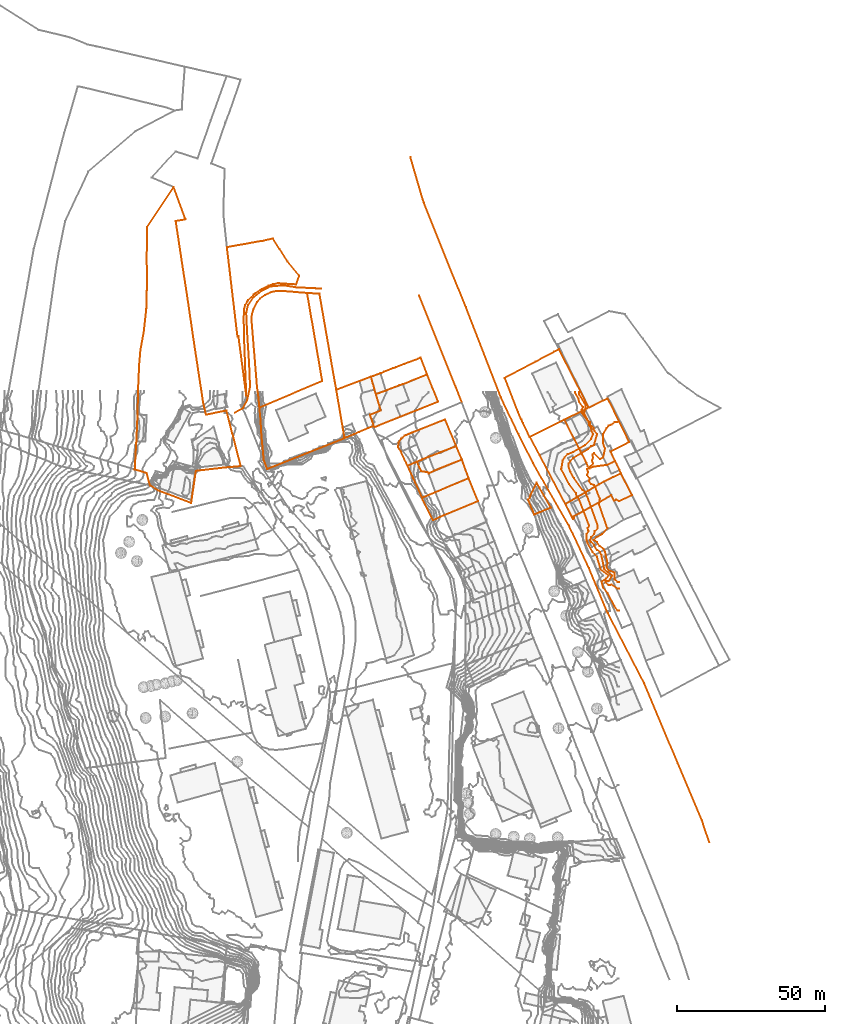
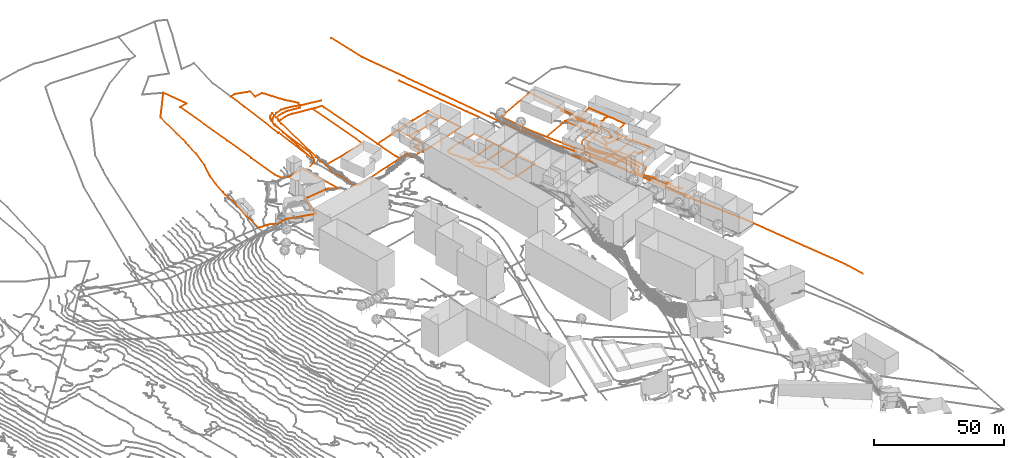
# Not in any storey, part 386 of 419: 22 proxies.
"""IFC2X3 model written with IfcOpenShell, lengths in metres."""

from ifc_helpers import new_model, entity, si_unit, frame, origin_with_axes, place, context, subcontext, project, element, save


model = new_model("IFC2X3")

# Units and contexts
model_context = context("Model", 3, precision=1e-05, world=origin_with_axes())
body_context = subcontext(model_context, "Body", "Model", "MODEL_VIEW")
ifc_project = project(units=[si_unit("AREAUNIT", "SQUARE_METRE"), si_unit("LENGTHUNIT", "METRE")], contexts=[model_context])

# Proxies
proxy_1_placement = place(None, frame((905.8920204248, 1111.6976909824, 86.3), z_axis=(0.0, 0.0, 1.0), x_axis=(1.0, 0.0, 0.0)))
element("IfcBuildingElementProxy", 1, at=proxy_1_placement, Name="Route 44", ObjectType="NOTDEFINED", context=body_context, shape_type="GeometricCurveSet", body=[
    entity("IfcGeometricCurveSet", [entity("IfcPolyline", [entity("IfcCartesianPoint", [101.2999999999, -232.2999999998, -5.0]), entity("IfcCartesianPoint", [98.7999999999, -224.7999999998, -4.7]), entity("IfcCartesianPoint", [90.6, -205.3999999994, -4.5]), entity("IfcCartesianPoint", [79.2, -178.2000000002, -4.1]), entity("IfcCartesianPoint", [66.8999999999, -154.5999999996, -3.6]), entity("IfcCartesianPoint", [60.5, -139.2999999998, -3.3]), entity("IfcCartesianPoint", [53.7, -124.7999999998, -2.9]), entity("IfcCartesianPoint", [46.1, -111.7000000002, -2.4]), entity("IfcCartesianPoint", [41.6, -103.7000000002, -2.4]), entity("IfcCartesianPoint", [36.6, -93.8999999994, -2.3]), entity("IfcCartesianPoint", [30.7, -81.5, -2.1]), entity("IfcCartesianPoint", [18.7999999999, -50.8999999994, -1.7]), entity("IfcCartesianPoint", [4.6, -15.7000000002, -1.1]), entity("IfcCartesianPoint", [0.0, 0.0, 0.0])])]),
])
proxy_2_placement = place(None, frame((908.8920204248, 1064.6976909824, 93.7), z_axis=(0.0, 0.0, 1.0), x_axis=(1.0, 0.0, 0.0)))
element("IfcBuildingElementProxy", 2, at=proxy_2_placement, Name="Route 214", ObjectType="NOTDEFINED", context=body_context, shape_type="GeometricCurveSet", body=[
    entity("IfcGeometricCurveSet", [entity("IfcPolyline", [entity("IfcCartesianPoint", [14.3999999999, -36.0999999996, -0.2]), entity("IfcCartesianPoint", [12.2999999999, -30.7000000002, -0.2]), entity("IfcCartesianPoint", [0.0, 0.0, 0.0])])]),
])
proxy_3_placement = place(None, frame((846.1920204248, 1024.9976909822, 99.5), z_axis=(0.0, 0.0, 1.0), x_axis=(1.0, 0.0, 0.0)))
element("IfcBuildingElementProxy", 3, at=proxy_3_placement, Name="Route 314", ObjectType="NOTDEFINED", context=body_context, shape_type="GeometricCurveSet", body=[
    entity("IfcGeometricCurveSet", [entity("IfcPolyline", [entity("IfcCartesianPoint", [0.0, 0.0, 0.0]), entity("IfcCartesianPoint", [3.0, 1.6000000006, 0.0]), entity("IfcCartesianPoint", [4.4, 4.3000000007, -0.2]), entity("IfcCartesianPoint", [5.4, 8.9000000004, -0.7]), entity("IfcCartesianPoint", [5.1, 16.5, -1.5]), entity("IfcCartesianPoint", [4.4, 27.6000000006, -2.2]), entity("IfcCartesianPoint", [4.1, 33.8000000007, -2.6]), entity("IfcCartesianPoint", [4.7000000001, 36.6000000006, -2.6]), entity("IfcCartesianPoint", [6.3, 38.9000000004, -2.7]), entity("IfcCartesianPoint", [9.1, 41.2000000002, -3.1]), entity("IfcCartesianPoint", [12.1, 42.8000000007, -3.5]), entity("IfcCartesianPoint", [16.6, 43.2000000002, -4.0]), entity("IfcCartesianPoint", [21.2000000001, 42.5, -4.3]), entity("IfcCartesianPoint", [27.8, 42.2000000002, -4.8]), entity("IfcCartesianPoint", [29.4, 42.1000000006, -4.8])])]),
])
proxy_4_placement = place(None, frame((812.5220204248, 1005.8476909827, 94.333429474), z_axis=(0.0, 0.0, 1.0), x_axis=(1.0, 0.0, 0.0)))
element("IfcBuildingElementProxy", 4, at=proxy_4_placement, Name="Cadastre 89", ObjectType="NOTDEFINED", context=body_context, shape_type="GeometricCurveSet", body=[
    entity("IfcGeometricCurveSet", [entity("IfcPolyline", [entity("IfcCartesianPoint", [35.9099999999, 1.1200000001, 5.2493813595]), entity("IfcCartesianPoint", [30.45, 0.6399999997, 7.1471694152]), entity("IfcCartesianPoint", [20.7, -0.4900000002, 6.7785911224]), entity("IfcCartesianPoint", [19.11, -11.3600000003, 6.8225557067]), entity("IfcCartesianPoint", [8.0599999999, -7.2199999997, 5.624827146]), entity("IfcCartesianPoint", [5.1699999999, -5.4000000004, 3.2054714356]), entity("IfcCartesianPoint", [4.0499999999, -1.25, 0.951329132]), entity("IfcCartesianPoint", [0.0, 0.0, 0.0]), entity("IfcCartesianPoint", [0.5399999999, 9.5099999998, -0.8262674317]), entity("IfcCartesianPoint", [0.97, 18.6600000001, -0.5593504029]), entity("IfcCartesianPoint", [1.14, 27.6200000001, -1.5453265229]), entity("IfcCartesianPoint", [1.23, 29.0999999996, -1.4706270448]), entity("IfcCartesianPoint", [1.49, 35.3799999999, -1.2548285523]), entity("IfcCartesianPoint", [1.9199999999, 40.4100000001, -0.8979310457]), entity("IfcCartesianPoint", [3.0299999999, 46.4399999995, 0.0233698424]), entity("IfcCartesianPoint", [3.9199999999, 54.3499999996, 0.2860735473]), entity("IfcCartesianPoint", [4.08, 60.4299999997, 0.3265741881]), entity("IfcCartesianPoint", [4.25, 63.1600000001, 0.3265741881]), entity("IfcCartesianPoint", [4.08, 69.7699999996, 0.3265741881]), entity("IfcCartesianPoint", [4.11, 82.1600000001, 0.3265741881]), entity("IfcCartesianPoint", [13.1699999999, 95.6500000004, 0.5715715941]), entity("IfcCartesianPoint", [17.21, 84.7299999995, 0.7605721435]), entity("IfcCartesianPoint", [13.89, 84.1299999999, 0.6075682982]), entity("IfcCartesianPoint", [18.26, 55.46, 0.8446704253]), entity("IfcCartesianPoint", [20.4199999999, 40.7299999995, 0.836568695]), entity("IfcCartesianPoint", [22.6, 26.5300000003, 0.8417637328]), entity("IfcCartesianPoint", [23.1699999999, 22.6899999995, 1.5498732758]), entity("IfcCartesianPoint", [24.13, 18.5499999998, 4.0389733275]), entity("IfcCartesianPoint", [31.0599999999, 19.9699999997, 4.6959024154]), entity("IfcCartesianPoint", [35.9099999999, 1.1200000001, 5.2493813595])])]),
])
proxy_5_placement = place(None, frame((958.4320204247, 994.1576909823, 82.632350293), z_axis=(0.0, 0.0, 1.0), x_axis=(1.0, 0.0, 0.0)))
element("IfcBuildingElementProxy", 5, at=proxy_5_placement, Name="Cadastre 219", ObjectType="NOTDEFINED", context=body_context, shape_type="GeometricCurveSet", body=[
    entity("IfcGeometricCurveSet", [entity("IfcPolyline", [entity("IfcCartesianPoint", [22.5, 2.9800000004, -4.1071525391]), entity("IfcCartesianPoint", [18.12, 0.96, -4.0767481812]), entity("IfcCartesianPoint", [17.2100000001, 1.4500000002, -4.0844476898]), entity("IfcCartesianPoint", [16.4600000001, 1.1000000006, -4.016549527]), entity("IfcCartesianPoint", [15.52, 2.9400000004, -3.9587515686]), entity("IfcCartesianPoint", [4.6100000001, -3.2399999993, -1.0651085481]), entity("IfcCartesianPoint", [2.4600000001, -4.3499999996, -0.2216515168]), entity("IfcCartesianPoint", [2.8600000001, -4.8700000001, -0.2807319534]), entity("IfcCartesianPoint", [2.5700000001, -5.1200000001, -0.148254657]), entity("IfcCartesianPoint", [0.0, 0.0, 0.0]), entity("IfcCartesianPoint", [6.9, 4.0300000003, -2.7475122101]), entity("IfcCartesianPoint", [7.76, 4.54, -3.0947497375]), entity("IfcCartesianPoint", [11.4300000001, 6.6699999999, -3.7006549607]), entity("IfcCartesianPoint", [13.05, 7.6000000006, -3.834359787]), entity("IfcCartesianPoint", [16.1000000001, 9.1000000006, -4.1460481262]), entity("IfcCartesianPoint", [18.8300000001, 10.3200000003, -4.1863529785]), entity("IfcCartesianPoint", [22.5, 2.9800000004, -4.1071525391])])]),
])
proxy_6_placement = place(None, frame((958.1020204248, 1022.7676909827, 82.9931108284), z_axis=(0.0, 0.0, 1.0), x_axis=(1.0, 0.0, 0.0)))
element("IfcBuildingElementProxy", 6, at=proxy_6_placement, Name="Cadastre 220", ObjectType="NOTDEFINED", context=body_context, shape_type="GeometricCurveSet", body=[
    entity("IfcGeometricCurveSet", [entity("IfcPolyline", [entity("IfcCartesianPoint", [17.1800000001, -14.04, -4.5066397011]), entity("IfcCartesianPoint", [14.45, -15.4000000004, -4.2870236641]), entity("IfcCartesianPoint", [9.8200000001, -15.9900000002, -4.1146657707]), entity("IfcCartesianPoint", [8.42, -16.5599999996, -4.0385136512]), entity("IfcCartesianPoint", [7.9, -15.7199999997, -3.9711322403]), entity("IfcCartesianPoint", [7.47, -14.8200000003, -3.8635404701]), entity("IfcCartesianPoint", [5.53, -10.8099999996, -3.045110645]), entity("IfcCartesianPoint", [3.21, -6.3899999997, -0.1408853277]), entity("IfcCartesianPoint", [0.0, 0.0, 0.0]), entity("IfcCartesianPoint", [5.73, 2.8099999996, -2.3644635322]), entity("IfcCartesianPoint", [8.24, 4.0300000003, -3.5656099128]), entity("IfcCartesianPoint", [13.1, 6.4100000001, -3.4795134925]), entity("IfcCartesianPoint", [14.64, 7.1500000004, -3.3899297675]), entity("IfcCartesianPoint", [21.95, -7.5999999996, -4.2731096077]), entity("IfcCartesianPoint", [15.63, -10.8600000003, -4.2321698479]), entity("IfcCartesianPoint", [17.1800000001, -14.04, -4.5066397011])])]),
])
proxy_7_placement = place(None, frame((909.8720204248, 996.2776909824, 93.5001431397), z_axis=(0.0, 0.0, 1.0), x_axis=(1.0, 0.0, 0.0)))
element("IfcBuildingElementProxy", 7, at=proxy_7_placement, Name="Cadastre 228", ObjectType="NOTDEFINED", context=body_context, shape_type="GeometricCurveSet", body=[
    entity("IfcGeometricCurveSet", [entity("IfcPolyline", [entity("IfcCartesianPoint", [18.91, -1.1499999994, -3.3026057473]), entity("IfcCartesianPoint", [7.61, -5.8399999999, -2.7545013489]), entity("IfcCartesianPoint", [3.6799999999, -7.6099999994, -1.5548727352]), entity("IfcCartesianPoint", [0.23, -0.6899999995, -0.0319701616]), entity("IfcCartesianPoint", [0.0, 0.0, 0.0]), entity("IfcCartesianPoint", [4.49, 1.8700000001, -2.843441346]), entity("IfcCartesianPoint", [15.76, 6.5700000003, -3.0372032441]), entity("IfcCartesianPoint", [18.91, -1.1499999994, -3.3026057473])])]),
])
proxy_8_placement = place(None, frame((904.9020204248, 1007.127690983, 93.4796817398), z_axis=(0.0, 0.0, 1.0), x_axis=(1.0, 0.0, 0.0)))
element("IfcBuildingElementProxy", 8, at=proxy_8_placement, Name="Cadastre 229", ObjectType="NOTDEFINED", context=body_context, shape_type="GeometricCurveSet", body=[
    entity("IfcGeometricCurveSet", [entity("IfcPolyline", [entity("IfcCartesianPoint", [20.73, -4.2800000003, -3.0167418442]), entity("IfcCartesianPoint", [9.46, -8.9800000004, -2.8229799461]), entity("IfcCartesianPoint", [4.97, -10.8500000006, 0.0204613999]), entity("IfcCartesianPoint", [1.98, -4.1500000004, -1.4124156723]), entity("IfcCartesianPoint", [0.0, 0.0, 0.0]), entity("IfcCartesianPoint", [2.5299999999, 1.0800000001, -1.8779742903]), entity("IfcCartesianPoint", [3.24, 1.3899999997, -2.3395213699]), entity("IfcCartesianPoint", [4.6599999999, -1.8900000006, -2.601340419]), entity("IfcCartesianPoint", [6.73, -2.25, -2.5085471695]), entity("IfcCartesianPoint", [7.08, -2.3900000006, -2.5484749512]), entity("IfcCartesianPoint", [7.1899999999, -2.6500000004, -2.5604834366]), entity("IfcCartesianPoint", [9.13, -1.6699999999, -2.6502207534]), entity("IfcCartesianPoint", [18.45, 2.0999999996, -2.8385501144]), entity("IfcCartesianPoint", [20.73, -4.2800000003, -3.0167418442])])]),
])
proxy_9_placement = place(None, frame((908.1420204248, 1008.5176909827, 91.1401603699), z_axis=(0.0, 0.0, 1.0), x_axis=(1.0, 0.0, 0.0)))
element("IfcBuildingElementProxy", 9, at=proxy_9_placement, Name="Cadastre 230", ObjectType="NOTDEFINED", context=body_context, shape_type="GeometricCurveSet", body=[
    entity("IfcGeometricCurveSet", [entity("IfcPolyline", [entity("IfcCartesianPoint", [15.21, 0.71, -0.4990287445]), entity("IfcCartesianPoint", [5.89, -3.0599999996, -0.3106993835]), entity("IfcCartesianPoint", [3.95, -4.04, -0.2209620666]), entity("IfcCartesianPoint", [3.84, -3.7800000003, -0.2089535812]), entity("IfcCartesianPoint", [3.49, -3.6399999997, -0.1690257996]), entity("IfcCartesianPoint", [1.4199999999, -3.2800000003, -0.2618190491]), entity("IfcCartesianPoint", [0.0, 0.0, 0.0]), entity("IfcCartesianPoint", [1.65, 0.6299999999, -0.2086612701]), entity("IfcCartesianPoint", [1.9399999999, 0.8099999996, -0.1957040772]), entity("IfcCartesianPoint", [4.03, 1.6500000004, -0.2331905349]), entity("IfcCartesianPoint", [13.28, 5.1900000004, -0.2537514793]), entity("IfcCartesianPoint", [15.21, 0.71, -0.4990287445])])]),
])
proxy_10_placement = place(None, frame((901.7620204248, 1013.4476909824, 93.1591904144), z_axis=(0.0, 0.0, 1.0), x_axis=(1.0, 0.0, 0.0)))
element("IfcBuildingElementProxy", 10, at=proxy_10_placement, Name="Cadastre 231", ObjectType="NOTDEFINED", context=body_context, shape_type="GeometricCurveSet", body=[
    entity("IfcGeometricCurveSet", [entity("IfcPolyline", [entity("IfcCartesianPoint", [6.38, -4.9299999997, -2.0190300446]), entity("IfcCartesianPoint", [5.6699999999, -5.2399999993, -1.557482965]), entity("IfcCartesianPoint", [3.14, -6.3199999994, 0.3204913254]), entity("IfcCartesianPoint", [0.9199999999, -1.5800000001, 0.0455853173]), entity("IfcCartesianPoint", [0.0, 0.0, 0.0]), entity("IfcCartesianPoint", [0.12, 1.5700000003, -0.0971929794]), entity("IfcCartesianPoint", [0.99, 2.8900000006, -0.573244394]), entity("IfcCartesianPoint", [1.47, 3.25, -0.7703105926]), entity("IfcCartesianPoint", [2.14, 3.8500000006, -1.0186219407]), entity("IfcCartesianPoint", [2.63, 4.0200000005, -1.0940516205]), entity("IfcCartesianPoint", [3.46, 4.4100000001, -1.0702113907]), entity("IfcCartesianPoint", [4.77, 4.9000000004, -0.9352775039]), entity("IfcCartesianPoint", [15.9299999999, 9.3300000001, -1.8910692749]), entity("IfcCartesianPoint", [19.66, 0.2600000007, -2.2727815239]), entity("IfcCartesianPoint", [10.41, -3.2799999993, -2.2522205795]), entity("IfcCartesianPoint", [8.3199999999, -4.1200000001, -2.2147341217]), entity("IfcCartesianPoint", [8.03, -4.2999999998, -2.2276913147]), entity("IfcCartesianPoint", [6.38, -4.9299999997, -2.0190300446])])]),
])
proxy_11_placement = place(None, frame((945.8120204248, 995.6076909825, 87.773518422), z_axis=(0.0, 0.0, 1.0), x_axis=(1.0, 0.0, 0.0)))
element("IfcBuildingElementProxy", 11, at=proxy_11_placement, Name="Cadastre 238", ObjectType="NOTDEFINED", context=body_context, shape_type="GeometricCurveSet", body=[
    entity("IfcGeometricCurveSet", [entity("IfcPolyline", [entity("IfcCartesianPoint", [2.05, -5.0099999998, 1.0510823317]), entity("IfcCartesianPoint", [1.64, -4.0899999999, 0.8963913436]), entity("IfcCartesianPoint", [0.0, 0.0, 0.0]), entity("IfcCartesianPoint", [0.67, 1.0300000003, -1.1987527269]), entity("IfcCartesianPoint", [0.8300000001, 1.6699999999, -1.7269364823]), entity("IfcCartesianPoint", [2.8400000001, 5.71, -4.554665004]), entity("IfcCartesianPoint", [3.8, 4.0499999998, -4.6826737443]), entity("IfcCartesianPoint", [7.7100000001, -2.6399999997, -4.7443866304]), entity("IfcCartesianPoint", [3.8100000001, -4.2800000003, -0.7798511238]), entity("IfcCartesianPoint", [2.05, -5.0099999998, 1.0510823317])])]),
])
proxy_12_placement = place(None, frame((937.8520204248, 1036.877690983, 83.6047994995), z_axis=(0.0, 0.0, 1.0), x_axis=(1.0, 0.0, 0.0)))
element("IfcBuildingElementProxy", 12, at=proxy_12_placement, Name="Cadastre 239", ObjectType="NOTDEFINED", context=body_context, shape_type="GeometricCurveSet", body=[
    entity("IfcGeometricCurveSet", [entity("IfcPolyline", [entity("IfcCartesianPoint", [18.36, 9.6799999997, -1.1325999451]), entity("IfcCartesianPoint", [28.49, -10.0800000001, -4.1772985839]), entity("IfcCartesianPoint", [25.98, -11.3000000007, -2.9761522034]), entity("IfcCartesianPoint", [20.25, -14.1100000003, -0.6116886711]), entity("IfcCartesianPoint", [8.49, -19.9900000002, -0.3006982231]), entity("IfcCartesianPoint", [6.1800000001, -15.3700000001, -0.1745364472]), entity("IfcCartesianPoint", [5.65, -14.2200000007, -0.2421637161]), entity("IfcCartesianPoint", [4.51, -11.6699999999, -0.2565371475]), entity("IfcCartesianPoint", [0.0, 0.0, 0.0]), entity("IfcCartesianPoint", [10.41, 5.4899999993, -0.3681972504]), entity("IfcCartesianPoint", [16.71, 8.8099999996, -0.8321027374]), entity("IfcCartesianPoint", [18.36, 9.6799999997, -1.1325999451])])]),
])
proxy_13_placement = place(None, frame((946.3420204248, 1016.8876909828, 83.3041012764), z_axis=(0.0, 0.0, 1.0), x_axis=(1.0, 0.0, 0.0)))
element("IfcBuildingElementProxy", 13, at=proxy_13_placement, Name="Cadastre 240", ObjectType="NOTDEFINED", context=body_context, shape_type="GeometricCurveSet", body=[
    entity("IfcGeometricCurveSet", [entity("IfcPolyline", [entity("IfcCartesianPoint", [30.92, -12.4100000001, -4.858103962]), entity("IfcCartesianPoint", [28.1900000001, -13.6299999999, -4.8177991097]), entity("IfcCartesianPoint", [25.14, -15.1299999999, -4.5061107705]), entity("IfcCartesianPoint", [23.52, -16.0600000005, -4.3724059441]), entity("IfcCartesianPoint", [19.85, -18.1900000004, -3.766500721]), entity("IfcCartesianPoint", [18.99, -18.7000000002, -3.4192631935]), entity("IfcCartesianPoint", [12.09, -22.7300000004, -0.6717509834]), entity("IfcCartesianPoint", [3.34, -6.2000000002, -0.164861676]), entity("IfcCartesianPoint", [0.0, 0.0, 0.0]), entity("IfcCartesianPoint", [11.76, 5.8799999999, -0.310990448]), entity("IfcCartesianPoint", [14.97, -0.5099999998, -0.4518757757]), entity("IfcCartesianPoint", [17.29, -4.9299999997, -3.3561010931]), entity("IfcCartesianPoint", [19.23, -8.9400000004, -4.1745309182]), entity("IfcCartesianPoint", [19.66, -9.8399999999, -4.2821226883]), entity("IfcCartesianPoint", [20.1800000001, -10.6799999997, -4.3495040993]), entity("IfcCartesianPoint", [21.5800000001, -10.1100000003, -4.4256562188]), entity("IfcCartesianPoint", [26.21, -9.5200000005, -4.5980141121]), entity("IfcCartesianPoint", [28.9400000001, -8.1600000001, -4.8176301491]), entity("IfcCartesianPoint", [30.41, -11.25, -4.9089007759]), entity("IfcCartesianPoint", [30.92, -12.4100000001, -4.858103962])])]),
])
proxy_14_placement = place(None, frame((843.7420204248, 1081.127690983, 99.1515026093), z_axis=(0.0, 0.0, 1.0), x_axis=(1.0, 0.0, 0.0)))
element("IfcBuildingElementProxy", 14, at=proxy_14_placement, Name="Cadastre 246", ObjectType="NOTDEFINED", context=body_context, shape_type="GeometricCurveSet", body=[
    entity("IfcGeometricCurveSet", [entity("IfcPolyline", [entity("IfcCartesianPoint", [15.6, 2.9699999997, -5.6390018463]), entity("IfcCartesianPoint", [17.8, -0.5500000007, -5.641500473]), entity("IfcCartesianPoint", [20.5699999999, -4.8900000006, -5.7358998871]), entity("IfcCartesianPoint", [24.48, -9.5600000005, -5.7303993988]), entity("IfcCartesianPoint", [23.4300000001, -12.6200000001, -5.707302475]), entity("IfcCartesianPoint", [17.36, -12.2000000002, -5.641500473]), entity("IfcCartesianPoint", [15.7, -12.5600000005, -5.6440021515]), entity("IfcCartesianPoint", [14.05, -13.0500000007, -5.6014995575]), entity("IfcCartesianPoint", [11.91, -14.1100000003, -5.5257053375]), entity("IfcCartesianPoint", [9.71, -15.5, -2.0183005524]), entity("IfcCartesianPoint", [9.29, -15.8000000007, -1.438701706]), entity("IfcCartesianPoint", [9.09, -15.9800000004, -1.1627022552]), entity("IfcCartesianPoint", [7.25, -17.9500000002, -0.649502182]), entity("IfcCartesianPoint", [6.86, -18.4700000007, -0.6417005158]), entity("IfcCartesianPoint", [6.22, -19.6400000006, -0.591104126]), entity("IfcCartesianPoint", [5.8, -20.9000000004, -0.5420059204]), entity("IfcCartesianPoint", [5.7, -24.0200000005, -0.5030052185]), entity("IfcCartesianPoint", [5.8, -30.1200000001, -0.5420059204]), entity("IfcCartesianPoint", [6.5699999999, -50.29, -0.4673100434]), entity("IfcCartesianPoint", [3.91, -30.1600000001, -0.0211029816]), entity("IfcCartesianPoint", [3.59, -30.2300000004, 0.0326963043]), entity("IfcCartesianPoint", [1.02, -8.5800000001, 0.1920995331]), entity("IfcCartesianPoint", [0.0, 0.0, 0.0]), entity("IfcCartesianPoint", [1.9399999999, 0.3700000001, 0.2495005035]), entity("IfcCartesianPoint", [9.75, 1.7699999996, -2.0735004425]), entity("IfcCartesianPoint", [12.1, 2.1599999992, -5.5390052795]), entity("IfcCartesianPoint", [15.6, 2.9699999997, -5.6390018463])])]),
])
proxy_15_placement = place(None, frame((852.0720204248, 1056.837690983, 98.4083987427), z_axis=(0.0, 0.0, 1.0), x_axis=(1.0, 0.0, 0.0)))
element("IfcBuildingElementProxy", 15, at=proxy_15_placement, Name="Cadastre 247", ObjectType="NOTDEFINED", context=body_context, shape_type="GeometricCurveSet", body=[
    entity("IfcGeometricCurveSet", [entity("IfcPolyline", [entity("IfcCartesianPoint", [2.6800000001, -30.0100000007, -1.9645023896]), entity("IfcCartesianPoint", [2.3100000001, -25.9900000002, -2.8141940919]), entity("IfcCartesianPoint", [1.9, -23.3200000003, -2.2777981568]), entity("IfcCartesianPoint", [0.0, 0.0, 0.0]), entity("IfcCartesianPoint", [0.16, 1.71, -0.027199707]), entity("IfcCartesianPoint", [0.66, 3.3399999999, -0.2815986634]), entity("IfcCartesianPoint", [1.89, 5.6499999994, -2.2564981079]), entity("IfcCartesianPoint", [2.99, 6.9699999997, -4.1530013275]), entity("IfcCartesianPoint", [4.5900000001, 8.1499999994, -4.8491007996]), entity("IfcCartesianPoint", [6.8400000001, 9.1299999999, -4.8743966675]), entity("IfcCartesianPoint", [8.6800000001, 9.5, -4.8983966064]), entity("IfcCartesianPoint", [10.55, 9.4399999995, -4.9104987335]), entity("IfcCartesianPoint", [18.8500000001, 8.7799999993, -5.0383959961]), entity("IfcCartesianPoint", [23.9700000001, -21.0300000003, -5.0918963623]), entity("IfcCartesianPoint", [2.6800000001, -30.0100000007, -1.9645023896])])]),
])
proxy_16_placement = place(None, frame((880.7920204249, 1032.8276909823, 93.3219985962), z_axis=(0.0, 0.0, 1.0), x_axis=(1.0, 0.0, 0.0)))
element("IfcBuildingElementProxy", 16, at=proxy_16_placement, Name="Cadastre 252", ObjectType="NOTDEFINED", context=body_context, shape_type="GeometricCurveSet", body=[
    entity("IfcGeometricCurveSet", [entity("IfcPolyline", [entity("IfcCartesianPoint", [12.72, -12.1399999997, -0.3452249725]), entity("IfcCartesianPoint", [10.7899999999, -12.9699999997, -0.2467819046]), entity("IfcCartesianPoint", [7.7599999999, -14.2599999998, -0.0961683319]), entity("IfcCartesianPoint", [5.98, -15.0199999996, 1.3109496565]), entity("IfcCartesianPoint", [3.6799999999, -16.0099999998, 3.8139291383]), entity("IfcCartesianPoint", [2.75, -16.3999999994, 3.7608886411]), entity("IfcCartesianPoint", [2.6599999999, -15.4699999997, 2.3402633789]), entity("IfcCartesianPoint", [2.21, -12.8099999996, 0.4102789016]), entity("IfcCartesianPoint", [1.85, -10.7399999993, 0.0724567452]), entity("IfcCartesianPoint", [0.0, 0.0, 0.0]), entity("IfcCartesianPoint", [7.9399999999, 3.0, -0.2105976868]), entity("IfcCartesianPoint", [11.75, 4.46, -0.2215000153]), entity("IfcCartesianPoint", [12.96, 0.0600000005, -0.2336013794]), entity("IfcCartesianPoint", [13.4299999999, -1.4799999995, -0.2303170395]), entity("IfcCartesianPoint", [15.09, -6.9799999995, -0.4456061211]), entity("IfcCartesianPoint", [11.3999999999, -8.46, -0.242359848]), entity("IfcCartesianPoint", [12.72, -12.1399999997, -0.3452249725])])]),
])
proxy_17_placement = place(None, frame((854.7520204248, 1026.8276909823, 96.4438963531), z_axis=(0.0, 0.0, 1.0), x_axis=(1.0, 0.0, 0.0)))
element("IfcBuildingElementProxy", 17, at=proxy_17_placement, Name="Cadastre 253", ObjectType="NOTDEFINED", context=body_context, shape_type="GeometricCurveSet", body=[
    entity("IfcGeometricCurveSet", [entity("IfcPolyline", [entity("IfcCartesianPoint", [28.79, -10.3999999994, 0.6389908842]), entity("IfcCartesianPoint", [2.63, -20.8399999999, 2.3175986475]), entity("IfcCartesianPoint", [1.47, -17.6099999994, 0.5054634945]), entity("IfcCartesianPoint", [0.71, -9.71, 0.2995363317]), entity("IfcCartesianPoint", [0.35, -3.8299999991, -1.6153966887]), entity("IfcCartesianPoint", [0.0, 0.0, 0.0]), entity("IfcCartesianPoint", [21.29, 8.9800000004, -3.1273939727]), entity("IfcCartesianPoint", [16.17, 38.79, -3.0738936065]), entity("IfcCartesianPoint", [17.29, 38.71, -3.0558931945]), entity("IfcCartesianPoint", [20.38, 38.5200000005, -3.0954941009]), entity("IfcCartesianPoint", [20.54, 37.3300000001, -3.1018942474]), entity("IfcCartesianPoint", [26.04, 6.0, -3.1218977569]), entity("IfcCartesianPoint", [27.89, -4.7399999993, -3.0494410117]), entity("IfcCartesianPoint", [28.25, -6.8099999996, -2.7116188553]), entity("IfcCartesianPoint", [28.7, -9.4699999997, -0.781634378]), entity("IfcCartesianPoint", [28.79, -10.3999999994, 0.6389908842])])]),
])
proxy_18_placement = place(None, frame((892.5420204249, 1037.2876909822, 93.1004985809), z_axis=(0.0, 0.0, 1.0), x_axis=(1.0, 0.0, 0.0)))
element("IfcBuildingElementProxy", 18, at=proxy_18_placement, Name="Cadastre 254", ObjectType="NOTDEFINED", context=body_context, shape_type="GeometricCurveSet", body=[
    entity("IfcGeometricCurveSet", [entity("IfcPolyline", [entity("IfcCartesianPoint", [19.0499999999, 0.7100000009, -1.1004985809]), entity("IfcCartesianPoint", [10.8099999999, -2.5499999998, -0.6436962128]), entity("IfcCartesianPoint", [9.75, -2.9299999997, -0.5604969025]), entity("IfcCartesianPoint", [5.0399999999, -4.6899999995, -0.1198952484]), entity("IfcCartesianPoint", [1.6799999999, -5.9399999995, -0.0088170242]), entity("IfcCartesianPoint", [1.21, -4.3999999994, -0.0121013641]), entity("IfcCartesianPoint", [0.0, 0.0, 0.0]), entity("IfcCartesianPoint", [0.75, 0.25, -0.0075016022]), entity("IfcCartesianPoint", [3.2699999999, 1.1500000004, -0.0526959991]), entity("IfcCartesianPoint", [4.5099999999, 1.6800000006, -0.0880965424]), entity("IfcCartesianPoint", [7.5099999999, 2.8800000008, -0.4026950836]), entity("IfcCartesianPoint", [8.5699999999, 3.2200000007, -0.4664965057]), entity("IfcCartesianPoint", [11.2699999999, 4.3100000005, -0.6736972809]), entity("IfcCartesianPoint", [16.86, 6.4100000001, -1.01909935]), entity("IfcCartesianPoint", [19.0499999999, 0.7100000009, -1.1004985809])])]),
])
proxy_19_placement = place(None, frame((892.1920204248, 1024.3676909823, 93.0796387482), z_axis=(0.0, 0.0, 1.0), x_axis=(1.0, 0.0, 0.0)))
element("IfcBuildingElementProxy", 19, at=proxy_19_placement, Name="Cadastre 255", ObjectType="NOTDEFINED", context=body_context, shape_type="GeometricCurveSet", body=[
    entity("IfcGeometricCurveSet", [entity("IfcPolyline", [entity("IfcCartesianPoint", [1.3200000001, -3.6799999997, -0.1028651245]), entity("IfcCartesianPoint", [0.0, 0.0, 0.0]), entity("IfcCartesianPoint", [3.6900000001, 1.4800000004, -0.203246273]), entity("IfcCartesianPoint", [2.03, 6.9800000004, 0.0120428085]), entity("IfcCartesianPoint", [5.39, 8.2300000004, -0.0990354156]), entity("IfcCartesianPoint", [10.1000000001, 9.9900000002, -0.5396370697]), entity("IfcCartesianPoint", [11.16, 10.3700000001, -0.62283638]), entity("IfcCartesianPoint", [19.4, 13.6300000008, -1.0796387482]), entity("IfcCartesianPoint", [23.0700000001, 4.4400000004, -1.5989779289]), entity("IfcCartesianPoint", [10.4300000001, -0.6299999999, -0.7204319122]), entity("IfcCartesianPoint", [1.5, -4.2199999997, -0.1083874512]), entity("IfcCartesianPoint", [1.3200000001, -3.6799999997, -0.1028651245])])]),
])
proxy_20_placement = place(None, frame((965.7587294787, 1003.8976909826, 79.0), z_axis=(0.0, 0.0, 1.0), x_axis=(1.0, 0.0, 0.0)))
element("IfcBuildingElementProxy", 20, at=proxy_20_placement, Name="Contour 79.0 m", ObjectType="NOTDEFINED", context=body_context, shape_type="GeometricCurveSet", body=[
    entity("IfcGeometricCurveSet", [entity("IfcPolyline", [entity("IfcCartesianPoint", [10.8332909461, 18.1111299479, 0.0]), entity("IfcCartesianPoint", [9.3333909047, 18.0, 0.0]), entity("IfcCartesianPoint", [8.3332909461, 17.1111299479, 0.0]), entity("IfcCartesianPoint", [7.3332909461, 16.8000305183, 0.0]), entity("IfcCartesianPoint", [6.6060056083, 16.0, 0.0]), entity("IfcCartesianPoint", [5.4102275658, 14.0, 0.0]), entity("IfcCartesianPoint", [5.3333159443, 11.0, 0.0]), entity("IfcCartesianPoint", [6.0833147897, 9.0, 0.0]), entity("IfcCartesianPoint", [5.4242189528, 6.0, 0.0]), entity("IfcCartesianPoint", [4.3332909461, 5.4000000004, 0.0]), entity("IfcCartesianPoint", [2.3332909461, 7.4210568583, 0.0]), entity("IfcCartesianPoint", [1.7999508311, 7.0, 0.0]), entity("IfcCartesianPoint", [2.0332985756, 6.0, 0.0]), entity("IfcCartesianPoint", [1.6904571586, 5.0, 0.0]), entity("IfcCartesianPoint", [2.0605762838, 4.0, 0.0]), entity("IfcCartesianPoint", [0.0476233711, 2.0, 0.0]), entity("IfcCartesianPoint", [0.3333034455, 1.0, 0.0]), entity("IfcCartesianPoint", [0.0, 0.0, 0.0]), entity("IfcCartesianPoint", [0.8333034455, -1.0, 0.0]), entity("IfcCartesianPoint", [0.6666412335, -2.0, 0.0]), entity("IfcCartesianPoint", [1.3332909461, -2.9999900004, 0.0]), entity("IfcCartesianPoint", [2.3332909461, -3.333333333, 0.0]), entity("IfcCartesianPoint", [2.7948203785, -4.0, 0.0]), entity("IfcCartesianPoint", [4.3332976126, -8.0, 0.0]), entity("IfcCartesianPoint", [4.0832849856, -10.0, 0.0]), entity("IfcCartesianPoint", [6.9090527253, -18.0, 0.0]), entity("IfcCartesianPoint", [5.0888434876, -20.0, 0.0]), entity("IfcCartesianPoint", [3.2618649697, -21.0, 0.0]), entity("IfcCartesianPoint", [2.272311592, -22.0, 0.0]), entity("IfcCartesianPoint", [3.3332909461, -22.6799926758, 0.0]), entity("IfcCartesianPoint", [4.2756006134, -24.0, 0.0]), entity("IfcCartesianPoint", [5.6259779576, -25.0, 0.0]), entity("IfcCartesianPoint", [6.1392646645, -26.0, 0.0]), entity("IfcCartesianPoint", [6.9656440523, -30.0, 0.0]), entity("IfcCartesianPoint", [6.5247801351, -31.0, 0.0]), entity("IfcCartesianPoint", [7.3332909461, -32.2471925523, 0.0]), entity("IfcCartesianPoint", [9.3496817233, -33.0, 0.0]), entity("IfcCartesianPoint", [9.3332909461, -35.2894773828, 0.0]), entity("IfcCartesianPoint", [10.3332909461, -36.271190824, 0.0]), entity("IfcCartesianPoint", [10.8332909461, -36.271190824, 0.0])])]),
])
proxy_21_placement = place(None, frame((959.4253608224, 1006.8976909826, 80.0), z_axis=(0.0, 0.0, 1.0), x_axis=(1.0, 0.0, 0.0)))
element("IfcBuildingElementProxy", 21, at=proxy_21_placement, Name="Contour 80.0 m", ObjectType="NOTDEFINED", context=body_context, shape_type="GeometricCurveSet", body=[
    entity("IfcGeometricCurveSet", [entity("IfcPolyline", [entity("IfcCartesianPoint", [3.5555461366, 25.5, 0.0]), entity("IfcCartesianPoint", [3.6666596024, 24.3846244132, 0.0]), entity("IfcCartesianPoint", [5.7618821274, 21.0, 0.0]), entity("IfcCartesianPoint", [5.8444396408, 20.0, 0.0]), entity("IfcCartesianPoint", [5.3118196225, 18.0, 0.0]), entity("IfcCartesianPoint", [6.3856675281, 16.0, 0.0]), entity("IfcCartesianPoint", [7.3347260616, 15.0, 0.0]), entity("IfcCartesianPoint", [7.3896822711, 14.0, 0.0]), entity("IfcCartesianPoint", [8.4862092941, 13.0, 0.0]), entity("IfcCartesianPoint", [8.8666596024, 12.0, 0.0]), entity("IfcCartesianPoint", [9.7652508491, 11.0, 0.0]), entity("IfcCartesianPoint", [8.6666596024, 7.1851935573, 0.0]), entity("IfcCartesianPoint", [7.6666596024, 6.8108130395, 0.0]), entity("IfcCartesianPoint", [6.6666596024, 5.8235346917, 0.0]), entity("IfcCartesianPoint", [1.6666596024, 2.8399963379, 0.0]), entity("IfcCartesianPoint", [0.7121070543, 2.0, 0.0]), entity("IfcCartesianPoint", [0.1403480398, 1.0, 0.0]), entity("IfcCartesianPoint", [0.0, 0.0, 0.0]), entity("IfcCartesianPoint", [0.7154323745, -2.0, 0.0]), entity("IfcCartesianPoint", [1.8611028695, -4.0, 0.0]), entity("IfcCartesianPoint", [4.8030169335, -8.0, 0.0]), entity("IfcCartesianPoint", [5.9333296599, -9.0, 0.0]), entity("IfcCartesianPoint", [9.9607759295, -20.0, 0.0]), entity("IfcCartesianPoint", [9.966651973, -21.0, 0.0]), entity("IfcCartesianPoint", [8.9080370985, -22.0, 0.0]), entity("IfcCartesianPoint", [8.7272565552, -23.0, 0.0]), entity("IfcCartesianPoint", [7.7135327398, -24.0, 0.0]), entity("IfcCartesianPoint", [7.3960693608, -25.0, 0.0]), entity("IfcCartesianPoint", [7.6666596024, -25.7187611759, 0.0]), entity("IfcCartesianPoint", [8.6666596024, -26.6956528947, 0.0]), entity("IfcCartesianPoint", [9.6666596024, -28.288884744, 0.0]), entity("IfcCartesianPoint", [10.6666596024, -29.0555473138, 0.0]), entity("IfcCartesianPoint", [11.17411821, -30.0, 0.0]), entity("IfcCartesianPoint", [12.1847311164, -35.0, 0.0]), entity("IfcCartesianPoint", [14.8034141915, -37.0, 0.0]), entity("IfcCartesianPoint", [13.6666596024, -38.8732444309, 0.0]), entity("IfcCartesianPoint", [12.6666596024, -38.9473705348, 0.0]), entity("IfcCartesianPoint", [12.6666596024, -39.4285558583, 0.0]), entity("IfcCartesianPoint", [13.6666596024, -40.2727146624, 0.0]), entity("IfcCartesianPoint", [14.6666596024, -40.0909280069, 0.0]), entity("IfcCartesianPoint", [16.6666596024, -41.4705935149, 0.0]), entity("IfcCartesianPoint", [17.1666596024, -41.4705935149, 0.0])])]),
])
proxy_22_placement = place(None, frame((957.0170237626, 1005.8976909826, 81.0), z_axis=(0.0, 0.0, 1.0), x_axis=(1.0, 0.0, 0.0)))
element("IfcBuildingElementProxy", 22, at=proxy_22_placement, Name="Contour 81.0 m", ObjectType="NOTDEFINED", context=body_context, shape_type="GeometricCurveSet", body=[
    entity("IfcGeometricCurveSet", [entity("IfcPolyline", [entity("IfcCartesianPoint", [4.6749966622, 26.5, 0.0]), entity("IfcCartesianPoint", [4.6749966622, 26.0, 0.0]), entity("IfcCartesianPoint", [5.8228937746, 24.0, 0.0]), entity("IfcCartesianPoint", [6.0449978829, 23.0, 0.0]), entity("IfcCartesianPoint", [7.3146670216, 21.0, 0.0]), entity("IfcCartesianPoint", [6.9137047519, 20.0, 0.0]), entity("IfcCartesianPoint", [7.0749973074, 19.0, 0.0]), entity("IfcCartesianPoint", [9.3228945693, 16.0, 0.0]), entity("IfcCartesianPoint", [9.4383069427, 15.0, 0.0]), entity("IfcCartesianPoint", [10.1426633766, 14.0, 0.0]), entity("IfcCartesianPoint", [10.2659051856, 13.0, 0.0]), entity("IfcCartesianPoint", [10.7792229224, 12.0, 0.0]), entity("IfcCartesianPoint", [10.0749966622, 10.2051332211, 0.0]), entity("IfcCartesianPoint", [8.0749966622, 8.2083320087, 0.0]), entity("IfcCartesianPoint", [4.0749966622, 5.8600006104, 0.0]), entity("IfcCartesianPoint", [2.0749966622, 5.0888900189, 0.0]), entity("IfcCartesianPoint", [1.0405066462, 4.0, 0.0]), entity("IfcCartesianPoint", [0.4613606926, 3.0, 0.0]), entity("IfcCartesianPoint", [0.0, 0.0, 0.0]), entity("IfcCartesianPoint", [2.6464226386, -5.0, 0.0]), entity("IfcCartesianPoint", [4.9360995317, -8.0, 0.0]), entity("IfcCartesianPoint", [5.1999996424, -9.0, 0.0]), entity("IfcCartesianPoint", [6.0749966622, -10.2142779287, 0.0]), entity("IfcCartesianPoint", [9.4464190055, -19.0, 0.0]), entity("IfcCartesianPoint", [8.9083215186, -20.0, 0.0]), entity("IfcCartesianPoint", [9.1926402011, -21.0, 0.0]), entity("IfcCartesianPoint", [8.6102047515, -22.0, 0.0]), entity("IfcCartesianPoint", [8.6279402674, -24.0, 0.0]), entity("IfcCartesianPoint", [8.9140783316, -25.0, 0.0]), entity("IfcCartesianPoint", [10.6519208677, -28.0, 0.0]), entity("IfcCartesianPoint", [12.0749966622, -29.5333401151, 0.0]), entity("IfcCartesianPoint", [13.3798748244, -34.0, 0.0]), entity("IfcCartesianPoint", [16.009203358, -36.0, 0.0]), entity("IfcCartesianPoint", [15.2489140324, -37.0, 0.0]), entity("IfcCartesianPoint", [13.6594108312, -38.0, 0.0]), entity("IfcCartesianPoint", [14.1636037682, -40.0, 0.0]), entity("IfcCartesianPoint", [15.7471331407, -42.0, 0.0]), entity("IfcCartesianPoint", [18.0749966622, -46.5641065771, 0.0]), entity("IfcCartesianPoint", [19.0749966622, -47.8846210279, 0.0]), entity("IfcCartesianPoint", [19.5749966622, -47.8846210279, 0.0])])]),
])

save(model, "model.ifc")
